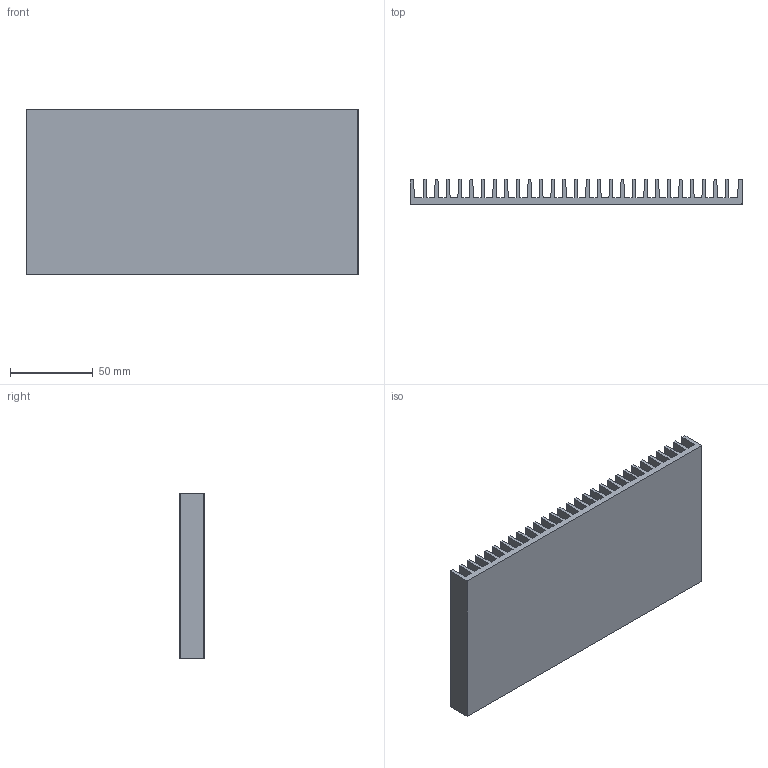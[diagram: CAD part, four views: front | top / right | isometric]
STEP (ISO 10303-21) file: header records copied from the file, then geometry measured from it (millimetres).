
FILE_DESCRIPTION (( 'STEP AP214' ), '1' );
FILE_NAME ('PR382.STEP', '2013-07-02T11:47:53', ( '' ), ( '' ), 'SwSTEP 2.0', 'SolidWorks 2013', '' );
FILE_SCHEMA (( 'AUTOMOTIVE_DESIGN' ));
Length unit declared in the file: millimetre
Products named in the file (1): PR382
Bounding box: 200 x 15 x 100 mm (x, y, z)
Volume: 144304 mm3; surface area: 105842.6 mm2
Topology: 1 solids, 1 shells, 122 faces, 360 edges, 240 vertices
Faces by surface type: plane 118, cylinder 4
Entity records: 4026 total; most frequent: CARTESIAN_POINT 723, ORIENTED_EDGE 720, DIRECTION 614, EDGE_CURVE 360, VECTOR 352, LINE 352, VERTEX_POINT 240, AXIS2_PLACEMENT_3D 131
